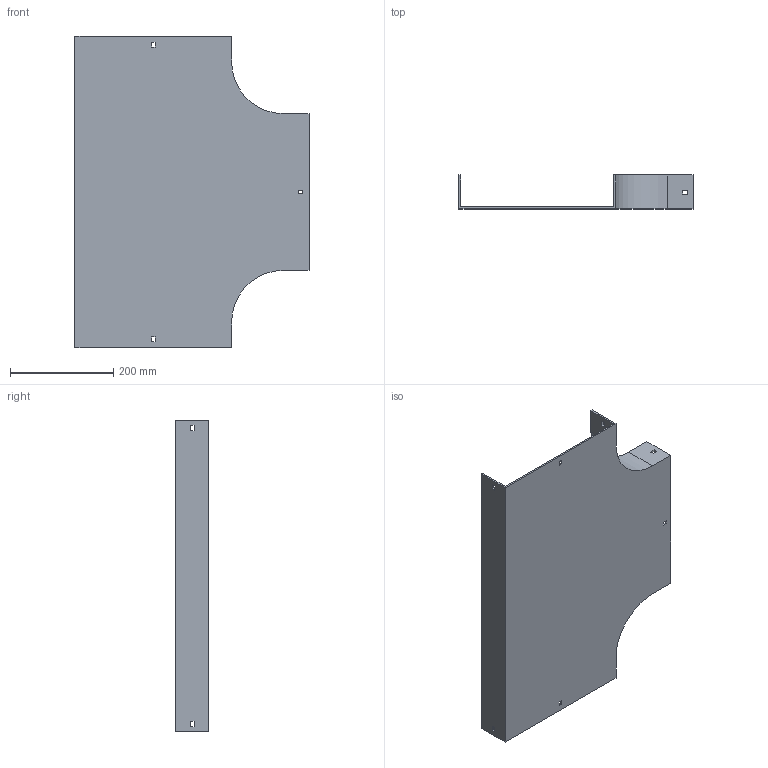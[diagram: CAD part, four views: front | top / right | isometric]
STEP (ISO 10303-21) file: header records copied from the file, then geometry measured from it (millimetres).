
FILE_DESCRIPTION (( 'STEP AP214' ), '1' );
FILE_NAME ('15B1H300.step', '2025-02-21T09:54:50', ( '' ), ( '' ), 'SwSTEP 2.0', 'SolidWorks 2023', '' );
FILE_SCHEMA (( 'AUTOMOTIVE_DESIGN' ));
Length unit declared in the file: millimetre
Products named in the file (1): 15B1H300
Bounding box: 454 x 65.5 x 604 mm (x, y, z)
Volume: 1059027.5 mm3; surface area: 614605.6 mm2
Topology: 1 solids, 1 shells, 58 faces, 168 edges, 112 vertices
Faces by surface type: plane 54, cylinder 4
Entity records: 1939 total; most frequent: CARTESIAN_POINT 339, ORIENTED_EDGE 336, DIRECTION 294, EDGE_CURVE 168, VECTOR 160, LINE 160, VERTEX_POINT 112, EDGE_LOOP 76
